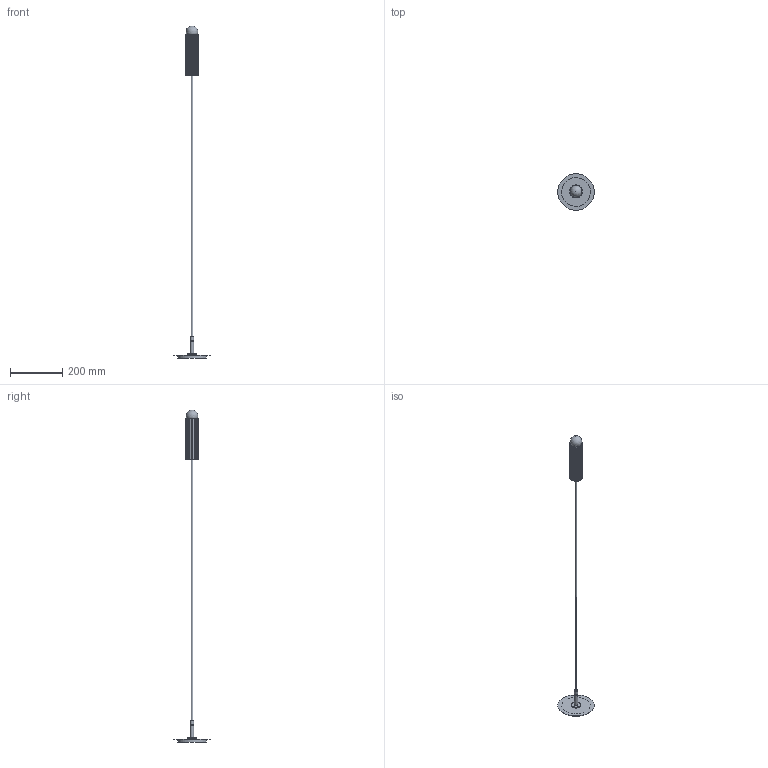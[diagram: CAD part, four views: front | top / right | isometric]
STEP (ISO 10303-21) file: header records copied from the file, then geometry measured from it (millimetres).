
FILE_DESCRIPTION(/* description */ (''),/* implementation_level */ '2;1');
FILE_NAME(/* name */ '250924_B_B759 Vesta Single SM.stp',/* time_stamp */ '2025-09-24T09:47:03+02:00',/* author */ ('Dominik'),/* organization */ (''),/* preprocessor_version */ 'ST-DEVELOPER v20.1',/* originating_system */ 'Autodesk Inventor 2026',/* authorisation */ '');
FILE_SCHEMA (('AUTOMOTIVE_DESIGN { 1 0 10303 214 3 1 1 }'));
Length unit declared in the file: millimetre
Products named in the file (1): B759 Vesta Single SM v0 katalog
Bounding box: 140 x 140 x 1274.3 mm (x, y, z)
Volume: 507610.6 mm3; surface area: 120347.1 mm2
Topology: 8 solids, 8 shells, 98 faces, 232 edges, 153 vertices
Faces by surface type: plane 47, cylinder 37, cone 6, torus 5, bspline 2, sphere 1
Full cylindrical faces by diameter (mm): 7 x1, 12 x1, 13 x2, 17 x1, 34.5 x1, 36 x1, 110 x1, 140 x1
Entity records: 3171 total; most frequent: CARTESIAN_POINT 627, DIRECTION 523, ORIENTED_EDGE 462, EDGE_CURVE 231, AXIS2_PLACEMENT_3D 198, VERTEX_POINT 153, LINE 127, VECTOR 127
